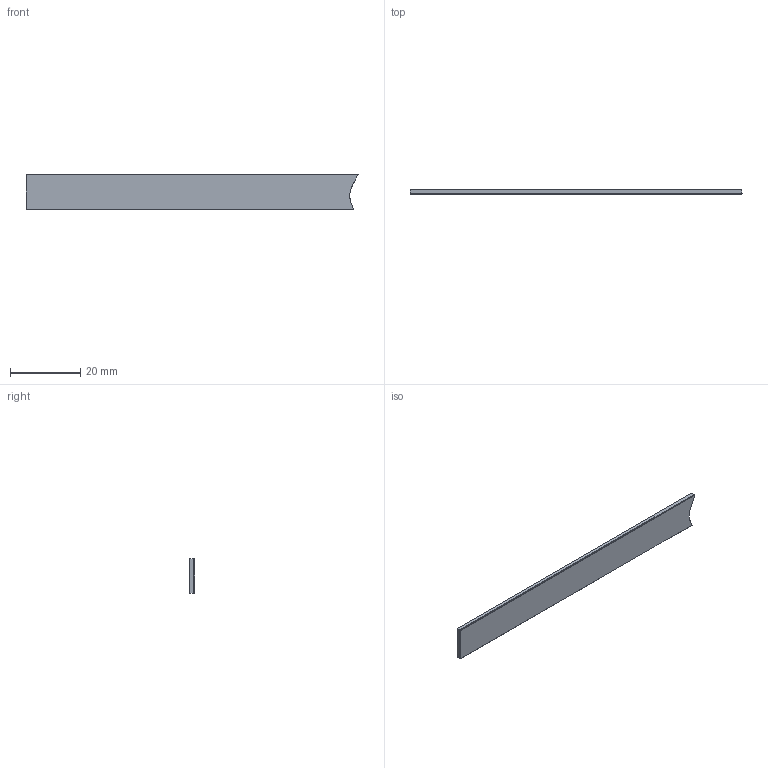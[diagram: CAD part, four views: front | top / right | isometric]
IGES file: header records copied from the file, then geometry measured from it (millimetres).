
Start section: SolidWorks IGES file using analytic representation for surfaces
Global section: file name: D:\Dokumenti\MOJI-DOKUMENTI2009-jan-jun\SWdatoteke\LM10\3Dpredstavitveni-modeli\new\magnetic-tape-MS10.IGS; native system: SolidWorks 2009; preprocessor: SolidWorks 2009; author: cerar; date: 090519.113919; units: millimetre
Bounding box: 94.49 x 1.5 x 10 mm (x, y, z)
Surface area: 2144.8 mm2 (no closed solid volume)
Topology: 0 solids, 0 shells, 34 faces, 214 edges, 214 vertices
Faces by surface type: bspline 32, revolution 2
